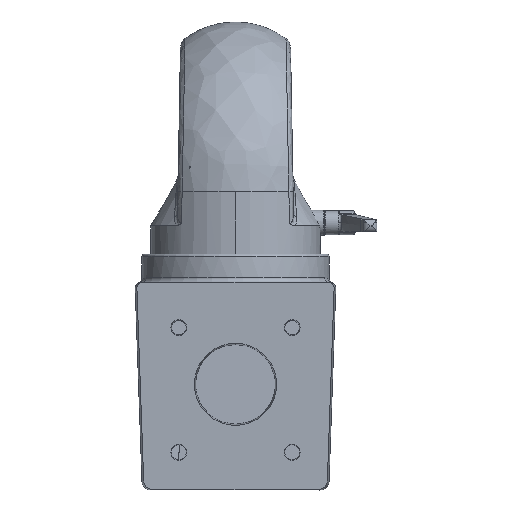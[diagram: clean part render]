
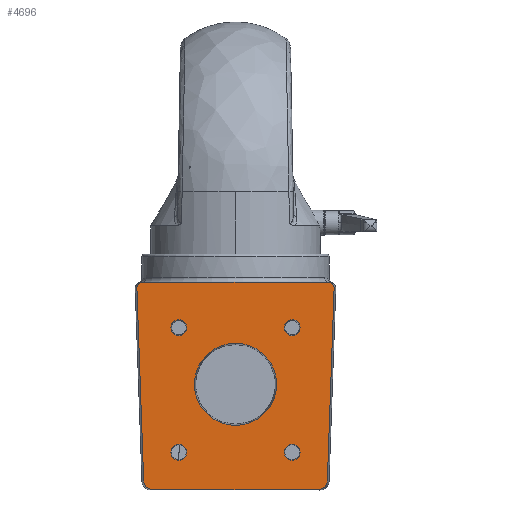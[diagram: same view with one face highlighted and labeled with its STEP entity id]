
A CAD part, left-side view. The second image highlights one B-rep face of the part: STEP entity #4696.
In plain terms, the highlighted planar face has unit normal (-1, 0, 0).
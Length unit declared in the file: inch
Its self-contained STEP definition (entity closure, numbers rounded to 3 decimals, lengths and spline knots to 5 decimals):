
#108=DIRECTION('',(0.,-0.035,-0.999));
#109=VECTOR('',#108,6.70163);
#110=CARTESIAN_POINT('',(-3.93701,3.42598,-5.21111));
#111=LINE('',#110,#109);
#112=CARTESIAN_POINT('',(-3.93701,3.4261,-5.20424));
#113=CARTESIAN_POINT('',(-3.93701,3.4261,-5.20653));
#114=CARTESIAN_POINT('',(-3.93701,3.42606,-5.20882));
#115=CARTESIAN_POINT('',(-3.93701,3.42598,-5.21111));
#117=CARTESIAN_POINT('',(-3.93701,-3.42598,
-5.21111));
#118=CARTESIAN_POINT('',(-3.93701,-3.42606,
-5.20882));
#119=CARTESIAN_POINT('',(-3.93701,-3.4261,
-5.20653));
#120=CARTESIAN_POINT('',(-3.93701,-3.4261,
-5.20424));
#122=CARTESIAN_POINT('',(-3.93701,0.,-8.55069));
#123=DIRECTION('',(1.,0.,0.));
#124=DIRECTION('',(0.,0.,1.));
#125=AXIS2_PLACEMENT_3D('',#122,#123,#124);
#127=CARTESIAN_POINT('',(-3.93701,0.,-8.55069));
#128=DIRECTION('',(1.,0.,0.));
#129=DIRECTION('',(0.,0.,-1.));
#130=AXIS2_PLACEMENT_3D('',#127,#128,#129);
#132=CARTESIAN_POINT('',(-3.93701,-1.9685,
-10.9129));
#133=DIRECTION('',(1.,0.,0.));
#134=DIRECTION('',(0.,1.,0.));
#135=AXIS2_PLACEMENT_3D('',#132,#133,#134);
#137=CARTESIAN_POINT('',(-3.93701,-1.9685,
-10.9129));
#138=DIRECTION('',(1.,0.,0.));
#139=DIRECTION('',(0.,-1.,0.));
#140=AXIS2_PLACEMENT_3D('',#137,#138,#139);
#142=CARTESIAN_POINT('',(-3.93701,1.9685,-10.9129));
#143=DIRECTION('',(1.,0.,0.));
#144=DIRECTION('',(0.,1.,0.));
#145=AXIS2_PLACEMENT_3D('',#142,#143,#144);
#147=CARTESIAN_POINT('',(-3.93701,1.9685,-10.9129));
#148=DIRECTION('',(1.,0.,0.));
#149=DIRECTION('',(0.,-1.,0.));
#150=AXIS2_PLACEMENT_3D('',#147,#148,#149);
#152=CARTESIAN_POINT('',(-3.93701,-1.9685,
-6.58219));
#153=DIRECTION('',(1.,0.,0.));
#154=DIRECTION('',(0.,1.,0.));
#155=AXIS2_PLACEMENT_3D('',#152,#153,#154);
#157=CARTESIAN_POINT('',(-3.93701,-1.9685,
-6.58219));
#158=DIRECTION('',(1.,0.,0.));
#159=DIRECTION('',(0.,-1.,0.));
#160=AXIS2_PLACEMENT_3D('',#157,#158,#159);
#162=CARTESIAN_POINT('',(-3.93701,1.9685,-6.58219));
#163=DIRECTION('',(1.,0.,0.));
#164=DIRECTION('',(0.,1.,0.));
#165=AXIS2_PLACEMENT_3D('',#162,#163,#164);
#167=CARTESIAN_POINT('',(-3.93701,1.9685,-6.58219));
#168=DIRECTION('',(1.,0.,0.));
#169=DIRECTION('',(0.,-1.,0.));
#170=AXIS2_PLACEMENT_3D('',#167,#168,#169);
#176=DIRECTION('',(0.,0.035,-0.999));
#177=VECTOR('',#176,6.70163);
#178=CARTESIAN_POINT('',(-3.93701,-3.42598,
-5.21111));
#179=LINE('',#178,#177);
#249=CARTESIAN_POINT('',(-3.93701,2.87534,-12.21211));
#250=CARTESIAN_POINT('',(-3.93701,2.92607,-12.21211));
#251=CARTESIAN_POINT('',(-3.93701,3.0069,-12.19075));
#252=CARTESIAN_POINT('',(-3.93701,3.09903,-12.12857));
#253=CARTESIAN_POINT('',(-3.93701,3.16483,-12.03911));
#254=CARTESIAN_POINT('',(-3.93701,3.18924,-11.95931));
#255=CARTESIAN_POINT('',(-3.93701,3.19102,-11.90862));
#271=DIRECTION('',(0.,1.,0.));
#272=VECTOR('',#271,5.75068);
#273=CARTESIAN_POINT('',(-3.93701,-2.87534,
-12.21211));
#274=LINE('',#273,#272);
#389=CARTESIAN_POINT('',(-3.93701,-3.19102,
-11.90862));
#390=CARTESIAN_POINT('',(-3.93701,-3.18924,
-11.95931));
#391=CARTESIAN_POINT('',(-3.93701,-3.16483,
-12.03911));
#392=CARTESIAN_POINT('',(-3.93701,-3.09903,
-12.12857));
#393=CARTESIAN_POINT('',(-3.93701,-3.0069,
-12.19075));
#394=CARTESIAN_POINT('',(-3.93701,-2.92607,
-12.21211));
#395=CARTESIAN_POINT('',(-3.93701,-2.87534,
-12.21211));
#458=CARTESIAN_POINT('',(-3.93701,3.4261,-5.20424));
#459=CARTESIAN_POINT('',(-3.93701,3.4261,-5.17135));
#460=CARTESIAN_POINT('',(-3.93701,3.41174,-5.11994));
#461=CARTESIAN_POINT('',(-3.93701,3.37099,-5.06204));
#462=CARTESIAN_POINT('',(-3.93701,3.3128,-5.02158));
#463=CARTESIAN_POINT('',(-3.93701,3.26122,-5.00739));
#464=CARTESIAN_POINT('',(-3.93701,3.22834,-5.00739));
#485=DIRECTION('',(0.,-1.,0.));
#486=VECTOR('',#485,6.45668);
#487=CARTESIAN_POINT('',(-3.93701,3.22834,-5.00739));
#488=LINE('',#487,#486);
#3577=CARTESIAN_POINT('',(-3.93701,-3.22834,
-5.00739));
#3578=CARTESIAN_POINT('',(-3.93701,-3.26122,
-5.00739));
#3579=CARTESIAN_POINT('',(-3.93701,-3.3128,
-5.02158));
#3580=CARTESIAN_POINT('',(-3.93701,-3.37099,
-5.06204));
#3581=CARTESIAN_POINT('',(-3.93701,-3.41174,
-5.11994));
#3582=CARTESIAN_POINT('',(-3.93701,-3.4261,
-5.17135));
#3583=CARTESIAN_POINT('',(-3.93701,-3.4261,
-5.20424));
#3915=CARTESIAN_POINT('',(-3.93701,0.,-7.12353));
#3917=VERTEX_POINT('',#3915);
#3923=CARTESIAN_POINT('',(-3.93701,-2.24409,
-6.58219));
#3925=VERTEX_POINT('',#3923);
#3991=CARTESIAN_POINT('',(-3.93701,0.,-9.97786));
#3993=VERTEX_POINT('',#3991);
#4071=CARTESIAN_POINT('',(-3.93701,-2.24409,
-10.9129));
#4072=CARTESIAN_POINT('',(-3.93701,-1.69291,
-10.9129));
#4073=VERTEX_POINT('',#4071);
#4074=VERTEX_POINT('',#4072);
#4100=CARTESIAN_POINT('',(-3.93701,2.24409,
-6.58219));
#4102=VERTEX_POINT('',#4100);
#4111=CARTESIAN_POINT('',(-3.93701,3.22834,
-5.00739));
#4113=VERTEX_POINT('',#4111);
#4114=CARTESIAN_POINT('',(-3.93701,-1.69291,
-6.58219));
#4115=VERTEX_POINT('',#4114);
#4116=CARTESIAN_POINT('',(-3.93701,-3.19102,
-11.90862));
#4118=VERTEX_POINT('',#4116);
#4259=CARTESIAN_POINT('',(-3.93701,3.19102,
-11.90862));
#4260=VERTEX_POINT('',#4259);
#4272=CARTESIAN_POINT('',(-3.93701,3.42598,
-5.21111));
#4273=VERTEX_POINT('',#4272);
#4293=CARTESIAN_POINT('',(-3.93701,-2.87534,
-12.21211));
#4294=CARTESIAN_POINT('',(-3.93701,2.87534,
-12.21211));
#4295=VERTEX_POINT('',#4293);
#4296=VERTEX_POINT('',#4294);
#4342=VERTEX_POINT('',#117);
#4343=VERTEX_POINT('',#120);
#4344=VERTEX_POINT('',#3577);
#4421=CARTESIAN_POINT('',(-3.93701,2.24409,
-10.9129));
#4422=CARTESIAN_POINT('',(-3.93701,1.69291,
-10.9129));
#4423=VERTEX_POINT('',#4421);
#4424=VERTEX_POINT('',#4422);
#4451=CARTESIAN_POINT('',(-3.93701,1.69291,
-6.58219));
#4452=VERTEX_POINT('',#4451);
#4455=VERTEX_POINT('',#458);
#4641=CARTESIAN_POINT('',(-3.93701,3.34646,
-12.094));
#4642=DIRECTION('',(-1.,0.,0.));
#4643=DIRECTION('',(0.,0.,-1.));
#4644=AXIS2_PLACEMENT_3D('',#4641,#4642,#4643);
#4645=PLANE('',#4644);
#4647=ORIENTED_EDGE('',*,*,#4646,.T.);
#4649=ORIENTED_EDGE('',*,*,#4648,.T.);
#4651=ORIENTED_EDGE('',*,*,#4650,.T.);
#4653=ORIENTED_EDGE('',*,*,#4652,.T.);
#4655=ORIENTED_EDGE('',*,*,#4654,.F.);
#4657=ORIENTED_EDGE('',*,*,#4656,.F.);
#4659=ORIENTED_EDGE('',*,*,#4658,.T.);
#4661=ORIENTED_EDGE('',*,*,#4660,.T.);
#4663=ORIENTED_EDGE('',*,*,#4662,.T.);
#4665=ORIENTED_EDGE('',*,*,#4664,.F.);
#4666=EDGE_LOOP('',(#4647,#4649,#4651,#4653,#4655,#4657,#4659,#4661,#4663,
#4665));
#4667=FACE_OUTER_BOUND('',#4666,.F.);
#4669=ORIENTED_EDGE('',*,*,#4668,.F.);
#4671=ORIENTED_EDGE('',*,*,#4670,.F.);
#4672=EDGE_LOOP('',(#4669,#4671));
#4673=FACE_BOUND('',#4672,.F.);
#4674=ORIENTED_EDGE('',*,*,#4634,.F.);
#4675=ORIENTED_EDGE('',*,*,#4621,.F.);
#4676=EDGE_LOOP('',(#4674,#4675));
#4677=FACE_BOUND('',#4676,.F.);
#4679=ORIENTED_EDGE('',*,*,#4678,.F.);
#4681=ORIENTED_EDGE('',*,*,#4680,.F.);
#4682=EDGE_LOOP('',(#4679,#4681));
#4683=FACE_BOUND('',#4682,.F.);
#4685=ORIENTED_EDGE('',*,*,#4684,.F.);
#4687=ORIENTED_EDGE('',*,*,#4686,.F.);
#4688=EDGE_LOOP('',(#4685,#4687));
#4689=FACE_BOUND('',#4688,.F.);
#4691=ORIENTED_EDGE('',*,*,#4690,.F.);
#4693=ORIENTED_EDGE('',*,*,#4692,.F.);
#4694=EDGE_LOOP('',(#4691,#4693));
#4695=FACE_BOUND('',#4694,.F.);
#116=B_SPLINE_CURVE_WITH_KNOTS('',3,(#112,#113,#114,#115),.UNSPECIFIED.,.F.,.F.,
(4,4),(0.,1.),.UNSPECIFIED.);
#121=B_SPLINE_CURVE_WITH_KNOTS('',3,(#117,#118,#119,#120),.UNSPECIFIED.,.F.,.F.,
(4,4),(0.,1.),.UNSPECIFIED.);
#126=CIRCLE('',#125,1.42717);
#131=CIRCLE('',#130,1.42717);
#136=CIRCLE('',#135,0.27559);
#141=CIRCLE('',#140,0.27559);
#146=CIRCLE('',#145,0.27559);
#151=CIRCLE('',#150,0.27559);
#156=CIRCLE('',#155,0.27559);
#161=CIRCLE('',#160,0.27559);
#166=CIRCLE('',#165,0.27559);
#171=CIRCLE('',#170,0.27559);
#256=B_SPLINE_CURVE_WITH_KNOTS('',3,(#249,#250,#251,#252,#253,#254,#255),
.UNSPECIFIED.,.F.,.F.,(4,1,1,1,4),(0.,0.25,0.5,0.75,1.),
.UNSPECIFIED.);
#396=B_SPLINE_CURVE_WITH_KNOTS('',3,(#389,#390,#391,#392,#393,#394,#395),
.UNSPECIFIED.,.F.,.F.,(4,1,1,1,4),(0.,0.25,0.5,0.75,1.),
.UNSPECIFIED.);
#465=B_SPLINE_CURVE_WITH_KNOTS('',3,(#458,#459,#460,#461,#462,#463,#464),
.UNSPECIFIED.,.F.,.F.,(4,1,1,1,4),(0.,0.25,0.5,0.75,1.),
.UNSPECIFIED.);
#3584=B_SPLINE_CURVE_WITH_KNOTS('',3,(#3577,#3578,#3579,#3580,#3581,#3582,
#3583),.UNSPECIFIED.,.F.,.F.,(4,1,1,1,4),(0.,0.25,0.5,0.75,1.),
.UNSPECIFIED.);
#4621=EDGE_CURVE('',#4073,#4074,#141,.T.);
#4634=EDGE_CURVE('',#4074,#4073,#136,.T.);
#4646=EDGE_CURVE('',#4342,#4118,#179,.T.);
#4648=EDGE_CURVE('',#4118,#4295,#396,.T.);
#4650=EDGE_CURVE('',#4295,#4296,#274,.T.);
#4652=EDGE_CURVE('',#4296,#4260,#256,.T.);
#4654=EDGE_CURVE('',#4273,#4260,#111,.T.);
#4656=EDGE_CURVE('',#4455,#4273,#116,.T.);
#4658=EDGE_CURVE('',#4455,#4113,#465,.T.);
#4660=EDGE_CURVE('',#4113,#4344,#488,.T.);
#4662=EDGE_CURVE('',#4344,#4343,#3584,.T.);
#4664=EDGE_CURVE('',#4342,#4343,#121,.T.);
#4668=EDGE_CURVE('',#3917,#3993,#126,.T.);
#4670=EDGE_CURVE('',#3993,#3917,#131,.T.);
#4678=EDGE_CURVE('',#4423,#4424,#146,.T.);
#4680=EDGE_CURVE('',#4424,#4423,#151,.T.);
#4684=EDGE_CURVE('',#4115,#3925,#156,.T.);
#4686=EDGE_CURVE('',#3925,#4115,#161,.T.);
#4690=EDGE_CURVE('',#4102,#4452,#166,.T.);
#4692=EDGE_CURVE('',#4452,#4102,#171,.T.);
#4696=ADVANCED_FACE('',(#4667,#4673,#4677,#4683,#4689,#4695),#4645,.T.);
